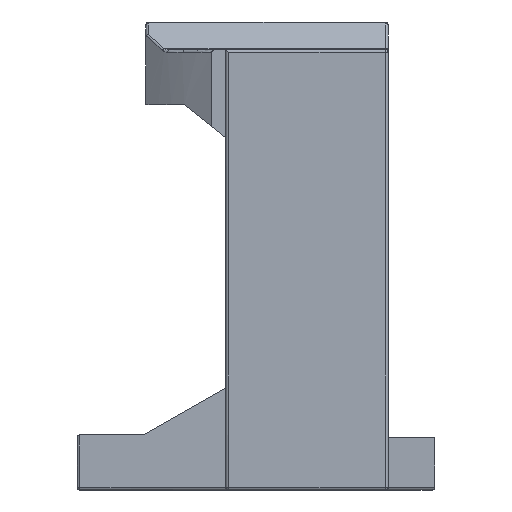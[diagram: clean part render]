
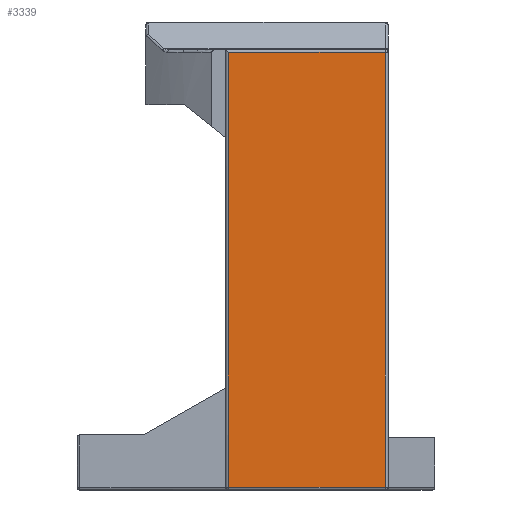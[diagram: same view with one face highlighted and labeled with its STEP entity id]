
A CAD part, left-side view. The second image highlights one B-rep face of the part: STEP entity #3339.
In plain terms, the highlighted planar face has unit normal (-1, 0, 0).
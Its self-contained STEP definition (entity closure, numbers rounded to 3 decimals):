
#161 = DIRECTION ( 'NONE',  ( 0., 1., 0. ) ) ;
#270 = VERTEX_POINT ( 'NONE', #4026 ) ;
#348 = ORIENTED_EDGE ( 'NONE', *, *, #4425, .T. ) ;
#496 = DIRECTION ( 'NONE',  ( 0., 1., 0. ) ) ;
#646 = VECTOR ( 'NONE', #5028, 1000. ) ;
#683 = VERTEX_POINT ( 'NONE', #4145 ) ;
#726 = VERTEX_POINT ( 'NONE', #3680 ) ;
#1209 = VERTEX_POINT ( 'NONE', #4465 ) ;
#1365 = DIRECTION ( 'NONE',  ( 0., 0., -1. ) ) ;
#1408 = CARTESIAN_POINT ( 'NONE',  ( -75., 72.5, 159. ) ) ;
#1612 = DIRECTION ( 'NONE',  ( 0., 0., 1. ) ) ;
#1722 = EDGE_CURVE ( 'NONE', #1209, #683, #3475, .T. ) ;
#1765 = DIRECTION ( 'NONE',  ( 1., 0., 0. ) ) ;
#1792 = LINE ( 'NONE', #2003, #646 ) ;
#2003 = CARTESIAN_POINT ( 'NONE',  ( -75., 72.5, 1. ) ) ;
#3039 = EDGE_LOOP ( 'NONE', ( #3335, #348, #5189, #4850 ) ) ;
#3335 = ORIENTED_EDGE ( 'NONE', *, *, #1722, .T. ) ;
#3339 = ADVANCED_FACE ( 'NONE', ( #3666 ), #3480, .F. ) ;
#3418 = EDGE_CURVE ( 'NONE', #270, #726, #5233, .T. ) ;
#3475 = LINE ( 'NONE', #4682, #4606 ) ;
#3480 = PLANE ( 'NONE',  #3687 ) ;
#3666 = FACE_OUTER_BOUND ( 'NONE', #3039, .T. ) ;
#3680 = CARTESIAN_POINT ( 'NONE',  ( -75., 10., 1. ) ) ;
#3687 = AXIS2_PLACEMENT_3D ( 'NONE', #4324, #1765, #496 ) ;
#4026 = CARTESIAN_POINT ( 'NONE',  ( -75., 10., 159. ) ) ;
#4145 = CARTESIAN_POINT ( 'NONE',  ( -75., -47., 159. ) ) ;
#4324 = CARTESIAN_POINT ( 'NONE',  ( -75., 72.5, 20. ) ) ;
#4425 = EDGE_CURVE ( 'NONE', #683, #270, #5062, .T. ) ;
#4465 = CARTESIAN_POINT ( 'NONE',  ( -75., -47., 1. ) ) ;
#4606 = VECTOR ( 'NONE', #1612, 1000. ) ;
#4682 = CARTESIAN_POINT ( 'NONE',  ( -75., -47., 20. ) ) ;
#4810 = EDGE_CURVE ( 'NONE', #726, #1209, #1792, .T. ) ;
#4850 = ORIENTED_EDGE ( 'NONE', *, *, #4810, .T. ) ;
#5028 = DIRECTION ( 'NONE',  ( 0., -1., 0. ) ) ;
#5057 = VECTOR ( 'NONE', #161, 1000. ) ;
#5062 = LINE ( 'NONE', #1408, #5057 ) ;
#5086 = VECTOR ( 'NONE', #1365, 1000. ) ;
#5157 = CARTESIAN_POINT ( 'NONE',  ( -75., 10., 20. ) ) ;
#5189 = ORIENTED_EDGE ( 'NONE', *, *, #3418, .T. ) ;
#5233 = LINE ( 'NONE', #5157, #5086 ) ;
